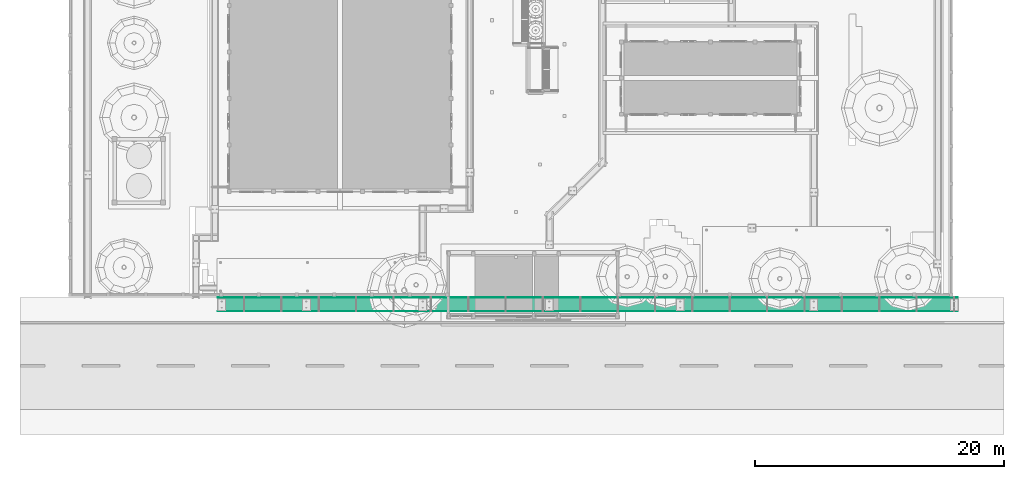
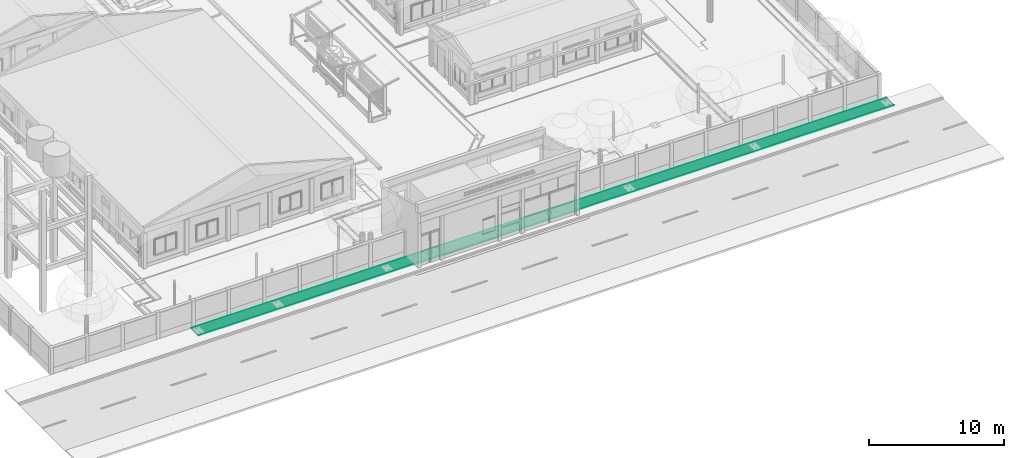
# One storey, part 96 of 177: 3 pipe segments.
"""IFC4 building model written with IfcOpenShell, lengths in metres."""

from ifc_helpers import new_model, si_unit, origin, origin_with_axes, place, context, subcontext, project, spatial, triangles, element, save


model = new_model("IFC4")

# Units and contexts
model_context = context("Model", 3, precision=1e-05, world=origin_with_axes())
body_context = subcontext(model_context, "Body", "Model", "MODEL_VIEW")
ifc_project = project(units=[si_unit("LENGTHUNIT", "METRE"), si_unit("AREAUNIT", "SQUARE_METRE"), si_unit("VOLUMEUNIT", "CUBIC_METRE"), si_unit("PLANEANGLEUNIT", "RADIAN")], contexts=[model_context])

# Site, building, storey
site_placement = place(None, origin_with_axes())
site = spatial("IfcSite", under=ifc_project, at=site_placement, Name="Predio Los Mangos - Morales, San Martín", CompositionType="ELEMENT")
building_placement = place(site_placement, origin())
building = spatial("IfcBuilding", under=site, at=building_placement, Name="Hogar de Refugio Temporal", CompositionType="ELEMENT")
storey_placement = place(building_placement, origin())
storey = spatial("IfcBuildingStorey", under=building, at=storey_placement, Name="NIVEL 1 (NPT +0.00)", CompositionType="ELEMENT", Elevation=0.0)

# Pipe segments
pipe_segment_1_placement = place(storey_placement, origin())
element("IfcPipeSegment", 1, at=pipe_segment_1_placement, inside=storey, Name="colector_losa", ObjectType="Colector frontal b=0.80 (losa-vereda)", PredefinedType="CULVERT", context=body_context, shape_type="Tessellation", body=[
    triangles([(12.895, 16.665, 0.15), (72.3, 16.665, 0.15), (72.3, 17.79, 0.15), (12.895, 17.79, 0.15), (12.895, 16.665, 0.162), (72.3, 16.665, 0.162), (72.3, 17.79, 0.162), (12.895, 17.79, 0.162)], [[1, 4, 3], [1, 3, 2], [5, 6, 7], [5, 7, 8], [1, 2, 6], [1, 6, 5], [2, 3, 7], [2, 7, 6], [3, 4, 8], [3, 8, 7], [4, 1, 5], [4, 5, 8]]),
])
pipe_segment_2_placement = place(storey_placement, origin())
element("IfcPipeSegment", 2, at=pipe_segment_2_placement, inside=storey, Name="junta_colector", ObjectType="Colector frontal b=0.80 (losa-vereda)", PredefinedType="CULVERT", context=body_context, shape_type="Tessellation", body=[
    triangles([(12.895, 16.665, 0.15), (72.3, 16.665, 0.15), (72.3, 16.6904, 0.15), (12.895, 16.6904, 0.15), (12.895, 16.665, 0.164), (72.3, 16.665, 0.164), (72.3, 16.6904, 0.164), (12.895, 16.6904, 0.164)], [[1, 4, 3], [1, 3, 2], [5, 6, 7], [5, 7, 8], [1, 2, 6], [1, 6, 5], [2, 3, 7], [2, 7, 6], [3, 4, 8], [3, 8, 7], [4, 1, 5], [4, 5, 8]]),
])
pipe_segment_3_placement = place(storey_placement, origin())
element("IfcPipeSegment", 3, at=pipe_segment_3_placement, inside=storey, Name="junta_colector", ObjectType="Colector frontal b=0.80 (losa-vereda)", PredefinedType="CULVERT", context=body_context, shape_type="Tessellation", body=[
    triangles([(12.895, 17.7646, 0.15), (72.3, 17.7646, 0.15), (72.3, 17.79, 0.15), (12.895, 17.79, 0.15), (12.895, 17.7646, 0.164), (72.3, 17.7646, 0.164), (72.3, 17.79, 0.164), (12.895, 17.79, 0.164)], [[1, 4, 3], [1, 3, 2], [5, 6, 7], [5, 7, 8], [1, 2, 6], [1, 6, 5], [2, 3, 7], [2, 7, 6], [3, 4, 8], [3, 8, 7], [4, 1, 5], [4, 5, 8]]),
])

save(model, "model.ifc")
